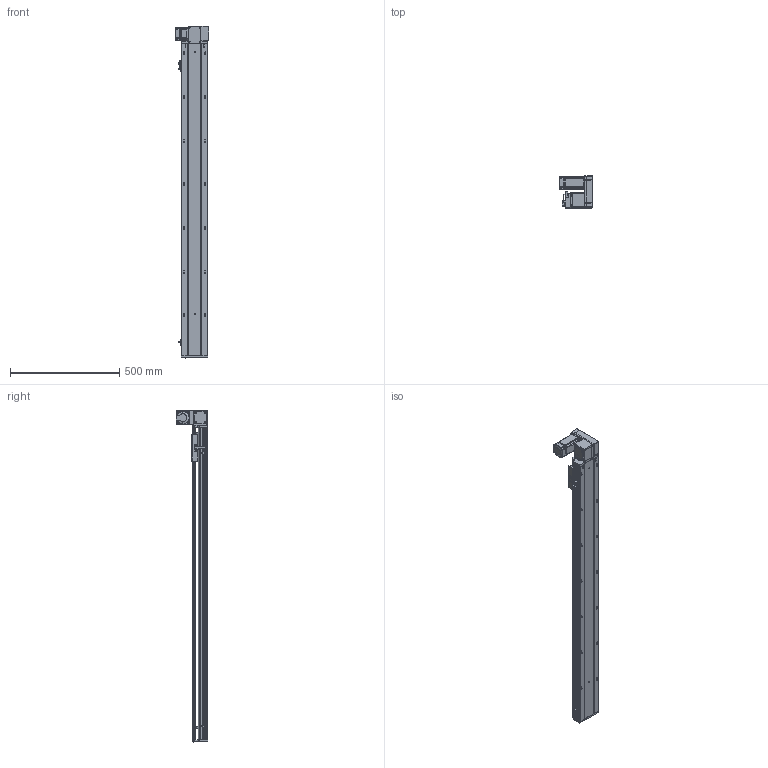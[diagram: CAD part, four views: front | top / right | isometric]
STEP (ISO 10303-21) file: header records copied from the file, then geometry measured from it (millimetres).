
FILE_DESCRIPTION (( 'STEP AP203' ), '1' );
FILE_NAME ('RY120-T-300-UR.SLDASM_1200.step', '2021-03-01T05:56:59', ( '盈信电脑' ), ( '东莞市道滘镇水果街19号' ), 'SwSTEP 2.0', 'SolidWorks 2012', '' );
FILE_SCHEMA (( 'CONFIG_CONTROL_DESIGN' ));
Length unit declared in the file: millimetre
Products named in the file (17): RY120-T主同步轮轴承压盖; RY120-T-300-UR.SLDASM_1200; RY120-T蹟翐M4; RY120-T萇儂欶; 15; RY120-T萇儂假蚾啣; RY120-T翋肮祭謫裔啣; 滅袉蝶18-10; RY120-T翋肮祭盓傅釱; RY120-T肮祭湍揤踡輸2; RY120外置感应片(140共用）; RY120-T肮祭湍揤踡輸1; 覜茼ん672; RY120綴裔啣; RY120肮祭湍臏賑輸; RY120-T-300-UR倰第奻裔啣_1200; RY120-T-300-UR倰第菁釱_1200
Assembly tree (22 placements, depth 2):
  RY120-T-300-UR.SLDASM_1200
    RY120-T-300-UR倰第菁釱_1200
    RY120-T-300-UR倰第奻裔啣_1200
    RY120肮祭湍臏賑輸
    RY120綴裔啣
    覜茼ん672  x3
    RY120外置感应片(140共用）
    RY120-T肮祭湍揤踡輸1
    RY120-T肮祭湍揤踡輸2
    RY120-T翋肮祭盓傅釱
    RY120-T萇儂假蚾啣
    滅袉蝶18-10  x2
    RY120-T翋肮祭謫裔啣
    15
    RY120-T蹟翐M4  x4
    RY120-T萇儂欶
    RY120-T主同步轮轴承压盖
Bounding box: 155.5 x 146 x 1521 mm (x, y, z)
Volume: 4056572.9 mm3; surface area: 1523750 mm2
Topology: 23 solids, 23 shells, 2844 faces, 7740 edges, 4950 vertices
Faces by surface type: plane 1412, cylinder 1078, cone 265, bspline 89
Entity records: 90129 total; most frequent: CARTESIAN_POINT 22764, ORIENTED_EDGE 13872, DIRECTION 13182, EDGE_CURVE 6936, VERTEX_POINT 4537, AXIS2_PLACEMENT_3D 4423, LINE 4336, VECTOR 4336
